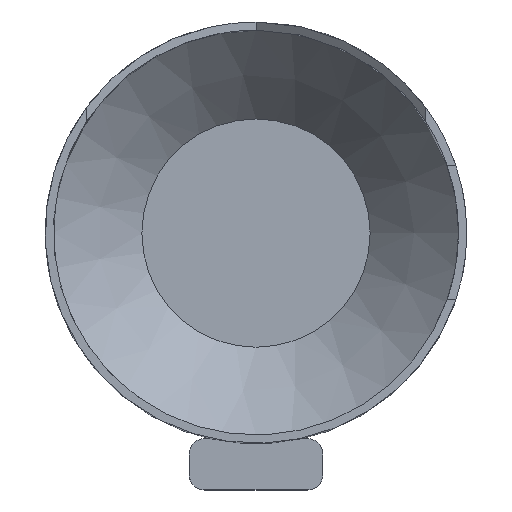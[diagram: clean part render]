
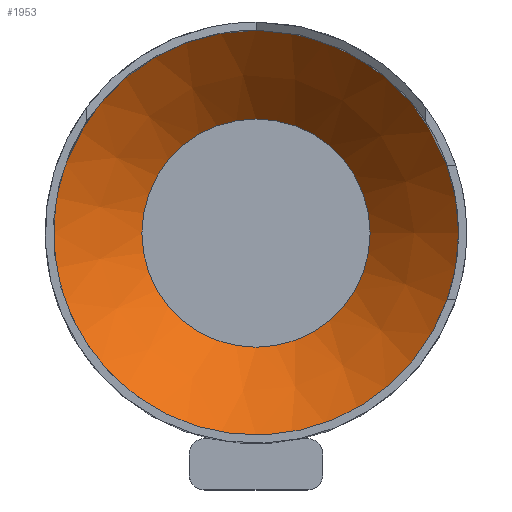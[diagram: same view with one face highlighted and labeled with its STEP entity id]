
A CAD part, top view. The second image highlights one B-rep face of the part: STEP entity #1953.
In plain terms, the highlighted conical face has half-angle 43.698 degrees and reference radius 39.4 mm.
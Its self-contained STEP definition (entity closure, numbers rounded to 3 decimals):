
#604 = CYLINDRICAL_SURFACE('',#605,39.4);
#605 = AXIS2_PLACEMENT_3D('',#606,#607,#608);
#606 = CARTESIAN_POINT('',(-95.,0.,6.4));
#607 = DIRECTION('',(0.,0.,1.));
#608 = DIRECTION('',(1.,0.,-0.));
#1542 = VERTEX_POINT('',#1543);
#1543 = CARTESIAN_POINT('',(-55.6,0.,72.));
#1564 = EDGE_CURVE('',#1542,#1542,#1565,.T.);
#1565 = SURFACE_CURVE('',#1566,(#1571,#1578),.PCURVE_S1.);
#1566 = CIRCLE('',#1567,39.4);
#1567 = AXIS2_PLACEMENT_3D('',#1568,#1569,#1570);
#1568 = CARTESIAN_POINT('',(-95.,0.,72.));
#1569 = DIRECTION('',(0.,0.,1.));
#1570 = DIRECTION('',(1.,0.,-0.));
#1571 = PCURVE('',#604,#1572);
#1572 = DEFINITIONAL_REPRESENTATION('',(#1573),#1577);
#1573 = LINE('',#1574,#1575);
#1574 = CARTESIAN_POINT('',(0.,65.6));
#1575 = VECTOR('',#1576,1.);
#1576 = DIRECTION('',(1.,0.));
#1577 = ( GEOMETRIC_REPRESENTATION_CONTEXT(2) 
PARAMETRIC_REPRESENTATION_CONTEXT() REPRESENTATION_CONTEXT('2D SPACE',''
  ) );
#1578 = PCURVE('',#1579,#1584);
#1579 = CONICAL_SURFACE('',#1580,39.4,0.763);
#1580 = AXIS2_PLACEMENT_3D('',#1581,#1582,#1583);
#1581 = CARTESIAN_POINT('',(-95.,0.,72.));
#1582 = DIRECTION('',(-0.,-0.,-1.));
#1583 = DIRECTION('',(1.,0.,-0.));
#1584 = DEFINITIONAL_REPRESENTATION('',(#1585),#1588);
#1585 = B_SPLINE_CURVE_WITH_KNOTS('',1,(#1586,#1587),.UNSPECIFIED.,.F.,
  .F.,(2,2),(0.,6.283),.PIECEWISE_BEZIER_KNOTS.);
#1586 = CARTESIAN_POINT('',(0.,0.));
#1587 = CARTESIAN_POINT('',(-6.283,0.));
#1588 = ( GEOMETRIC_REPRESENTATION_CONTEXT(2) 
PARAMETRIC_REPRESENTATION_CONTEXT() REPRESENTATION_CONTEXT('2D SPACE',''
  ) );
#1953 = ADVANCED_FACE('',(#1954),#1579,.F.);
#1954 = FACE_BOUND('',#1955,.F.);
#1955 = EDGE_LOOP('',(#1956,#1985,#2006,#2007));
#1956 = ORIENTED_EDGE('',*,*,#1957,.F.);
#1957 = EDGE_CURVE('',#1958,#1958,#1960,.T.);
#1958 = VERTEX_POINT('',#1959);
#1959 = CARTESIAN_POINT('',(-72.8,0.,90.));
#1960 = SURFACE_CURVE('',#1961,(#1966,#1973),.PCURVE_S1.);
#1961 = CIRCLE('',#1962,22.2);
#1962 = AXIS2_PLACEMENT_3D('',#1963,#1964,#1965);
#1963 = CARTESIAN_POINT('',(-95.,0.,90.));
#1964 = DIRECTION('',(0.,0.,1.));
#1965 = DIRECTION('',(1.,0.,-0.));
#1966 = PCURVE('',#1579,#1967);
#1967 = DEFINITIONAL_REPRESENTATION('',(#1968),#1972);
#1968 = LINE('',#1969,#1970);
#1969 = CARTESIAN_POINT('',(-0.,-18.));
#1970 = VECTOR('',#1971,1.);
#1971 = DIRECTION('',(-1.,-0.));
#1972 = ( GEOMETRIC_REPRESENTATION_CONTEXT(2) 
PARAMETRIC_REPRESENTATION_CONTEXT() REPRESENTATION_CONTEXT('2D SPACE',''
  ) );
#1973 = PCURVE('',#1974,#1979);
#1974 = PLANE('',#1975);
#1975 = AXIS2_PLACEMENT_3D('',#1976,#1977,#1978);
#1976 = CARTESIAN_POINT('',(-95.,0.,90.));
#1977 = DIRECTION('',(0.,0.,1.));
#1978 = DIRECTION('',(1.,0.,-0.));
#1979 = DEFINITIONAL_REPRESENTATION('',(#1980),#1984);
#1980 = CIRCLE('',#1981,22.2);
#1981 = AXIS2_PLACEMENT_2D('',#1982,#1983);
#1982 = CARTESIAN_POINT('',(0.,0.));
#1983 = DIRECTION('',(1.,0.));
#1984 = ( GEOMETRIC_REPRESENTATION_CONTEXT(2) 
PARAMETRIC_REPRESENTATION_CONTEXT() REPRESENTATION_CONTEXT('2D SPACE',''
  ) );
#1985 = ORIENTED_EDGE('',*,*,#1986,.F.);
#1986 = EDGE_CURVE('',#1542,#1958,#1987,.T.);
#1987 = SEAM_CURVE('',#1988,(#1992,#1999),.PCURVE_S1.);
#1988 = LINE('',#1989,#1990);
#1989 = CARTESIAN_POINT('',(-55.6,0.,72.));
#1990 = VECTOR('',#1991,1.);
#1991 = DIRECTION('',(-0.691,0.,0.723)
  );
#1992 = PCURVE('',#1579,#1993);
#1993 = DEFINITIONAL_REPRESENTATION('',(#1994),#1998);
#1994 = LINE('',#1995,#1996);
#1995 = CARTESIAN_POINT('',(-6.283,0.));
#1996 = VECTOR('',#1997,1.);
#1997 = DIRECTION('',(-0.,-1.));
#1998 = ( GEOMETRIC_REPRESENTATION_CONTEXT(2) 
PARAMETRIC_REPRESENTATION_CONTEXT() REPRESENTATION_CONTEXT('2D SPACE',''
  ) );
#1999 = PCURVE('',#1579,#2000);
#2000 = DEFINITIONAL_REPRESENTATION('',(#2001),#2005);
#2001 = LINE('',#2002,#2003);
#2002 = CARTESIAN_POINT('',(0.,-0.));
#2003 = VECTOR('',#2004,1.);
#2004 = DIRECTION('',(-0.,-1.));
#2005 = ( GEOMETRIC_REPRESENTATION_CONTEXT(2) 
PARAMETRIC_REPRESENTATION_CONTEXT() REPRESENTATION_CONTEXT('2D SPACE',''
  ) );
#2006 = ORIENTED_EDGE('',*,*,#1564,.T.);
#2007 = ORIENTED_EDGE('',*,*,#1986,.T.);
